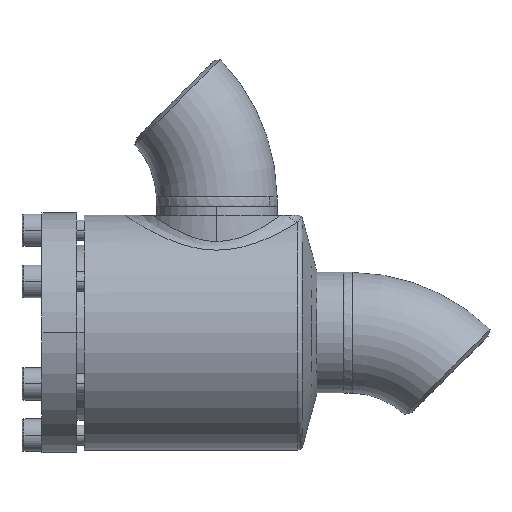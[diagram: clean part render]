
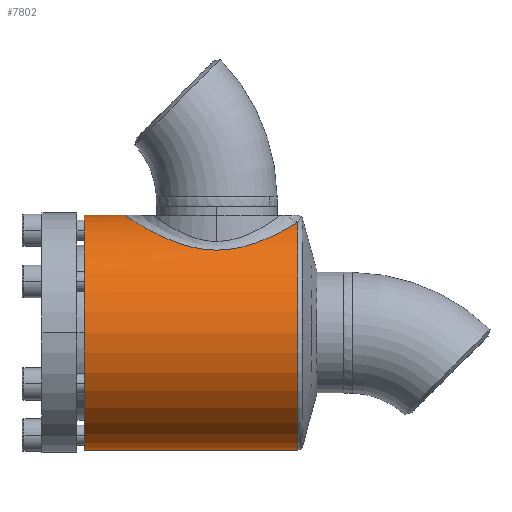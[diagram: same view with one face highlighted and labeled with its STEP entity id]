
A CAD part, left-side view. The second image highlights one B-rep face of the part: STEP entity #7802.
In plain terms, the highlighted cylindrical face has radius 47 mm (diameter 94 mm), a partial arc.
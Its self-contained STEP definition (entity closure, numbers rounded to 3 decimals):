
#16408 = FACE_OUTER_BOUND ( 'NONE', #7368, .T. ) ;
#16409 = CYLINDRICAL_SURFACE ( 'NONE', #16410, 47. ) ;
#16410 = AXIS2_PLACEMENT_3D ( 'NONE', #16411, #16412, #16413 ) ;
#16411 = CARTESIAN_POINT ( 'NONE',  ( 0., -91., 0. ) ) ;
#16412 = DIRECTION ( 'NONE',  ( 0., 1., 0. ) ) ;
#16413 = DIRECTION ( 'NONE',  ( 0., 0., 1. ) ) ;
#462 = ORIENTED_EDGE ( 'NONE', *, *, #31274, .T. ) ;
#17427 = VERTEX_POINT ( 'NONE', #26514 ) ;
#1386 = ORIENTED_EDGE ( 'NONE', *, *, #31039, .F. ) ;
#3728 = EDGE_CURVE ( 'NONE', #21865, #25283, #24723, .T. ) ;
#4420 = VERTEX_POINT ( 'NONE', #25307 ) ;
#4570 = CIRCLE ( 'NONE', #4571, 47. ) ;
#4571 = AXIS2_PLACEMENT_3D ( 'NONE', #4572, #4573, #4574 ) ;
#4572 = CARTESIAN_POINT ( 'NONE',  ( 0., 0., 0. ) ) ;
#4573 = DIRECTION ( 'NONE',  ( 0., 1., 0. ) ) ;
#4574 = DIRECTION ( 'NONE',  ( 0., 0., 1. ) ) ;
#21865 = VERTEX_POINT ( 'NONE', #26963 ) ;
#7368 = EDGE_LOOP ( 'NONE', ( #1386, #462, #30346, #30646, #29715 ) ) ;
#7669 = CARTESIAN_POINT ( 'NONE',  ( 0., 0., -47. ) ) ;
#7802 = ADVANCED_FACE ( 'NONE', ( #16408 ), #16409, .T. ) ;
#24723 = B_SPLINE_CURVE_WITH_KNOTS ( 'NONE', 3,
 ( #24724, #24725, #24726, #24727, #24728, #24729, #24730, #24731, #24732, #24734, #24735, #24736, #24737, #24738, #24739, #24740, #24741, #24742, #24743, #24744, #24745, #24746, #24747, #24748, #24749, #24753, #24754, #24755, #24756, #24757, #24758, #24759, #24760, #24761, #24762, #24763, #24764, #24765, #24766, #24767, #24768, #24769, #24770, #24771, #24772, #24773, #24774, #24775, #24776, #24777, #24778, #24779, #24780, #24781, #24782, #24783, #24784, #24787, #24788, #24789, #24790, #24791 ),
 .UNSPECIFIED., .F., .F.,
 ( 4, 2, 2, 2, 2, 2, 2, 2, 2, 2, 2, 2, 2, 2, 2, 2, 2, 2, 2, 2, 2, 2, 2, 2, 2, 2, 2, 2, 2, 2, 4 ),
 ( 0.017, 0.023, 0.026, 0.029, 0.035, 0.039, 0.04, 0.042, 0.048, 0.051, 0.052, 0.054, 0.06, 0.063, 0.066, 0.069, 0.072, 0.078, 0.081, 0.083, 0.084, 0.09, 0.093, 0.095, 0.096, 0.103, 0.106, 0.107, 0.109, 0.112, 0.115 ),
 .UNSPECIFIED. ) ;
#24724 = CARTESIAN_POINT ( 'NONE',  ( -16.073, -85.446, 44.166 ) ) ;
#24725 = CARTESIAN_POINT ( 'NONE',  ( -17.749, -84.43, 43.556 ) ) ;
#24726 = CARTESIAN_POINT ( 'NONE',  ( -19.293, -83.29, 42.887 ) ) ;
#24727 = CARTESIAN_POINT ( 'NONE',  ( -21.444, -81.41, 41.831 ) ) ;
#24728 = CARTESIAN_POINT ( 'NONE',  ( -22.133, -80.755, 41.469 ) ) ;
#24729 = CARTESIAN_POINT ( 'NONE',  ( -23.459, -79.389, 40.734 ) ) ;
#24730 = CARTESIAN_POINT ( 'NONE',  ( -24.096, -78.676, 40.359 ) ) ;
#24731 = CARTESIAN_POINT ( 'NONE',  ( -25.907, -76.48, 39.24 ) ) ;
#24732 = CARTESIAN_POINT ( 'NONE',  ( -26.989, -74.936, 38.497 ) ) ;
#24734 = CARTESIAN_POINT ( 'NONE',  ( -28.44, -72.491, 37.424 ) ) ;
#24735 = CARTESIAN_POINT ( 'NONE',  ( -28.894, -71.655, 37.073 ) ) ;
#24736 = CARTESIAN_POINT ( 'NONE',  ( -29.533, -70.366, 36.563 ) ) ;
#24737 = CARTESIAN_POINT ( 'NONE',  ( -29.739, -69.93, 36.396 ) ) ;
#24738 = CARTESIAN_POINT ( 'NONE',  ( -30.137, -69.047, 36.067 ) ) ;
#24739 = CARTESIAN_POINT ( 'NONE',  ( -30.328, -68.599, 35.906 ) ) ;
#24740 = CARTESIAN_POINT ( 'NONE',  ( -31.243, -66.344, 35.126 ) ) ;
#24741 = CARTESIAN_POINT ( 'NONE',  ( -31.842, -64.482, 34.576 ) ) ;
#24742 = CARTESIAN_POINT ( 'NONE',  ( -32.541, -61.591, 33.914 ) ) ;
#24743 = CARTESIAN_POINT ( 'NONE',  ( -32.74, -60.61, 33.721 ) ) ;
#24744 = CARTESIAN_POINT ( 'NONE',  ( -32.986, -59.111, 33.48 ) ) ;
#24745 = CARTESIAN_POINT ( 'NONE',  ( -33.059, -58.608, 33.408 ) ) ;
#24746 = CARTESIAN_POINT ( 'NONE',  ( -33.186, -57.603, 33.282 ) ) ;
#24747 = CARTESIAN_POINT ( 'NONE',  ( -33.239, -57.1, 33.229 ) ) ;
#24748 = CARTESIAN_POINT ( 'NONE',  ( -33.462, -54.583, 33.006 ) ) ;
#24749 = CARTESIAN_POINT ( 'NONE',  ( -33.49, -52.562, 32.976 ) ) ;
#24753 = CARTESIAN_POINT ( 'NONE',  ( -33.307, -49.52, 33.161 ) ) ;
#24754 = CARTESIAN_POINT ( 'NONE',  ( -33.207, -48.498, 33.262 ) ) ;
#24755 = CARTESIAN_POINT ( 'NONE',  ( -32.933, -46.49, 33.532 ) ) ;
#24756 = CARTESIAN_POINT ( 'NONE',  ( -32.761, -45.501, 33.702 ) ) ;
#24757 = CARTESIAN_POINT ( 'NONE',  ( -32.346, -43.55, 34.1 ) ) ;
#24758 = CARTESIAN_POINT ( 'NONE',  ( -32.103, -42.587, 34.33 ) ) ;
#24759 = CARTESIAN_POINT ( 'NONE',  ( -31.549, -40.688, 34.839 ) ) ;
#24760 = CARTESIAN_POINT ( 'NONE',  ( -31.237, -39.749, 35.121 ) ) ;
#24761 = CARTESIAN_POINT ( 'NONE',  ( -30.211, -37.009, 36.016 ) ) ;
#24762 = CARTESIAN_POINT ( 'NONE',  ( -29.406, -35.272, 36.683 ) ) ;
#24763 = CARTESIAN_POINT ( 'NONE',  ( -28.021, -32.781, 37.738 ) ) ;
#24764 = CARTESIAN_POINT ( 'NONE',  ( -27.529, -31.97, 38.099 ) ) ;
#24765 = CARTESIAN_POINT ( 'NONE',  ( -26.744, -30.781, 38.65 ) ) ;
#24766 = CARTESIAN_POINT ( 'NONE',  ( -26.475, -30.389, 38.835 ) ) ;
#24767 = CARTESIAN_POINT ( 'NONE',  ( -25.92, -29.615, 39.208 ) ) ;
#24768 = CARTESIAN_POINT ( 'NONE',  ( -25.634, -29.233, 39.396 ) ) ;
#24769 = CARTESIAN_POINT ( 'NONE',  ( -24.175, -27.357, 40.33 ) ) ;
#24770 = CARTESIAN_POINT ( 'NONE',  ( -22.902, -25.964, 41.072 ) ) ;
#24771 = CARTESIAN_POINT ( 'NONE',  ( -20.822, -24.029, 42.143 ) ) ;
#24772 = CARTESIAN_POINT ( 'NONE',  ( -20.099, -23.411, 42.494 ) ) ;
#24773 = CARTESIAN_POINT ( 'NONE',  ( -18.969, -22.523, 43.004 ) ) ;
#24774 = CARTESIAN_POINT ( 'NONE',  ( -18.584, -22.235, 43.172 ) ) ;
#24775 = CARTESIAN_POINT ( 'NONE',  ( -17.798, -21.671, 43.502 ) ) ;
#24776 = CARTESIAN_POINT ( 'NONE',  ( -17.396, -21.396, 43.664 ) ) ;
#24777 = CARTESIAN_POINT ( 'NONE',  ( -15.356, -20.064, 44.455 ) ) ;
#24778 = CARTESIAN_POINT ( 'NONE',  ( -13.635, -19.147, 45.018 ) ) ;
#24779 = CARTESIAN_POINT ( 'NONE',  ( -10.906, -18.006, 45.727 ) ) ;
#24780 = CARTESIAN_POINT ( 'NONE',  ( -9.972, -17.666, 45.94 ) ) ;
#24781 = CARTESIAN_POINT ( 'NONE',  ( -8.53, -17.219, 46.222 ) ) ;
#24782 = CARTESIAN_POINT ( 'NONE',  ( -8.041, -17.081, 46.31 ) ) ;
#24783 = CARTESIAN_POINT ( 'NONE',  ( -7.058, -16.829, 46.47 ) ) ;
#24784 = CARTESIAN_POINT ( 'NONE',  ( -6.563, -16.715, 46.542 ) ) ;
#24787 = CARTESIAN_POINT ( 'NONE',  ( -5.066, -16.41, 46.737 ) ) ;
#24788 = CARTESIAN_POINT ( 'NONE',  ( -4.049, -16.255, 46.836 ) ) ;
#24789 = CARTESIAN_POINT ( 'NONE',  ( -2.024, -16.051, 46.967 ) ) ;
#24790 = CARTESIAN_POINT ( 'NONE',  ( -1.011, -16., 47. ) ) ;
#24791 = CARTESIAN_POINT ( 'NONE',  ( 0., -16., 47. ) ) ;
#24834 = LINE ( 'NONE', #24835, #24836 ) ;
#24835 = CARTESIAN_POINT ( 'NONE',  ( 0., -91., -47. ) ) ;
#24836 = VECTOR ( 'NONE', #24837, 1000. ) ;
#24837 = DIRECTION ( 'NONE',  ( 0., 1., 0. ) ) ;
#25004 = CIRCLE ( 'NONE', #25005, 47. ) ;
#25005 = AXIS2_PLACEMENT_3D ( 'NONE', #25006, #25007, #25008 ) ;
#25006 = CARTESIAN_POINT ( 'NONE',  ( 0., -85.446, 0. ) ) ;
#25007 = DIRECTION ( 'NONE',  ( 0., 1., 0. ) ) ;
#25008 = DIRECTION ( 'NONE',  ( 0., 0., -1. ) ) ;
#25283 = VERTEX_POINT ( 'NONE', #28199 ) ;
#25307 = CARTESIAN_POINT ( 'NONE',  ( 0., -85.446, -47. ) ) ;
#25427 = EDGE_CURVE ( 'NONE', #25283, #17427, #28561, .T. ) ;
#26514 = CARTESIAN_POINT ( 'NONE',  ( 0., 0., 47. ) ) ;
#26963 = CARTESIAN_POINT ( 'NONE',  ( -16.073, -85.446, 44.166 ) ) ;
#28199 = CARTESIAN_POINT ( 'NONE',  ( 0., -16., 47. ) ) ;
#28561 = LINE ( 'NONE', #28562, #28563 ) ;
#28562 = CARTESIAN_POINT ( 'NONE',  ( 0., -91., 47. ) ) ;
#28563 = VECTOR ( 'NONE', #28564, 1000. ) ;
#28564 = DIRECTION ( 'NONE',  ( 0., 1., 0. ) ) ;
#29056 = EDGE_CURVE ( 'NONE', #30645, #17427, #4570, .T. ) ;
#29715 = ORIENTED_EDGE ( 'NONE', *, *, #29056, .F. ) ;
#30346 = ORIENTED_EDGE ( 'NONE', *, *, #3728, .T. ) ;
#30645 = VERTEX_POINT ( 'NONE', #7669 ) ;
#30646 = ORIENTED_EDGE ( 'NONE', *, *, #25427, .T. ) ;
#31039 = EDGE_CURVE ( 'NONE', #4420, #30645, #24834, .T. ) ;
#31274 = EDGE_CURVE ( 'NONE', #4420, #21865, #25004, .T. ) ;
